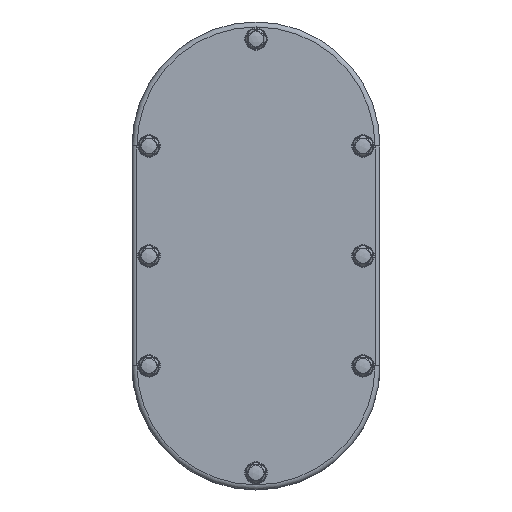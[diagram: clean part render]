
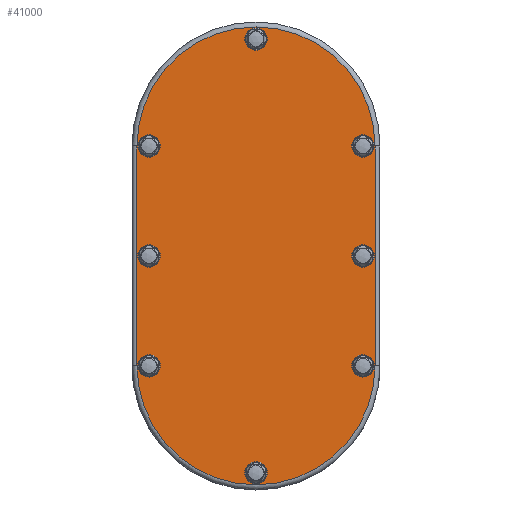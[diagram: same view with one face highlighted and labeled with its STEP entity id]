
A CAD part, top view. The second image highlights one B-rep face of the part: STEP entity #41000.
In plain terms, the highlighted planar face has unit normal (0, 0, 1).
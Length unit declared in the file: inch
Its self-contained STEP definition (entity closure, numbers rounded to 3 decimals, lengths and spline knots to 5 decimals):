
#459 = CARTESIAN_POINT ( 'NONE',  ( 2.37657, 4.38808, 3.97473 ) ) ;
#519 = VERTEX_POINT ( 'NONE', #98125 ) ;
#772 = CARTESIAN_POINT ( 'NONE',  ( 0., 4.38808, 3.97473 ) ) ;
#1127 = EDGE_CURVE ( 'NONE', #32306, #51512, #94498, .T. ) ;
#1759 = DIRECTION ( 'NONE',  ( 0., 0., -1. ) ) ;
#2587 = EDGE_LOOP ( 'NONE', ( #94924 ) ) ;
#3734 = EDGE_CURVE ( 'NONE', #92833, #92833, #76152, .T. ) ;
#5546 = EDGE_LOOP ( 'NONE', ( #11920 ) ) ;
#8767 = DIRECTION ( 'NONE',  ( 1., 0., 0. ) ) ;
#9281 = PLANE ( 'NONE',  #19405 ) ;
#10391 = CARTESIAN_POINT ( 'NONE',  ( 1.91294, 0., 3.97473 ) ) ;
#11479 = CARTESIAN_POINT ( 'NONE',  ( -1.91294, 4.38808, 3.97473 ) ) ;
#11920 = ORIENTED_EDGE ( 'NONE', *, *, #3734, .F. ) ;
#11955 = DIRECTION ( 'NONE',  ( 0., 0., 1. ) ) ;
#12512 = EDGE_LOOP ( 'NONE', ( #42092 ) ) ;
#12569 = AXIS2_PLACEMENT_3D ( 'NONE', #52813, #60327, #91348 ) ;
#13072 = VERTEX_POINT ( 'NONE', #50100 ) ;
#13649 = VECTOR ( 'NONE', #17962, 39.37008 ) ;
#15753 = VERTEX_POINT ( 'NONE', #76903 ) ;
#16795 = FACE_BOUND ( 'NONE', #63231, .T. ) ;
#16974 = CARTESIAN_POINT ( 'NONE',  ( -2.37657, 4.38808, 3.97473 ) ) ;
#17286 = FACE_BOUND ( 'NONE', #41450, .T. ) ;
#17962 = DIRECTION ( 'NONE',  ( 0., -1., 0. ) ) ;
#18179 = DIRECTION ( 'NONE',  ( 0., 0., 1. ) ) ;
#18602 = EDGE_LOOP ( 'NONE', ( #50261 ) ) ;
#18985 = CIRCLE ( 'NONE', #38455, 0.22206 ) ;
#19405 = AXIS2_PLACEMENT_3D ( 'NONE', #772, #1759, #62835 ) ;
#19975 = CARTESIAN_POINT ( 'NONE',  ( 0.22206, 6.52308, 3.97473 ) ) ;
#24363 = DIRECTION ( 'NONE',  ( 0., 0., 1. ) ) ;
#25666 = AXIS2_PLACEMENT_3D ( 'NONE', #68916, #24363, #46363 ) ;
#25968 = DIRECTION ( 'NONE',  ( 0., 0., 1. ) ) ;
#31265 = AXIS2_PLACEMENT_3D ( 'NONE', #51801, #67323, #74323 ) ;
#32306 = VERTEX_POINT ( 'NONE', #49621 ) ;
#32315 = AXIS2_PLACEMENT_3D ( 'NONE', #37622, #44658, #97707 ) ;
#33836 = AXIS2_PLACEMENT_3D ( 'NONE', #61482, #92001, #68998 ) ;
#34150 = CARTESIAN_POINT ( 'NONE',  ( -2.37657, 0., 3.97473 ) ) ;
#37622 = CARTESIAN_POINT ( 'NONE',  ( 2.135, 2.19404, 3.97473 ) ) ;
#37785 = CARTESIAN_POINT ( 'NONE',  ( -2.135, 0., 3.97473 ) ) ;
#37825 = ORIENTED_EDGE ( 'NONE', *, *, #1127, .T. ) ;
#38455 = AXIS2_PLACEMENT_3D ( 'NONE', #59799, #44272, #81333 ) ;
#38810 = FACE_BOUND ( 'NONE', #2587, .T. ) ;
#39307 = FACE_BOUND ( 'NONE', #18602, .T. ) ;
#39902 = EDGE_CURVE ( 'NONE', #80031, #80031, #41663, .T. ) ;
#40184 = CIRCLE ( 'NONE', #81769, 2.37657 ) ;
#41000 = ADVANCED_FACE ( 'NONE', ( #38810, #39307, #70349, #83885, #17286, #85373, #69367, #16795, #77849 ), #9281, .F. ) ;
#41450 = EDGE_LOOP ( 'NONE', ( #62403 ) ) ;
#41663 = CIRCLE ( 'NONE', #72043, 0.22206 ) ;
#42092 = ORIENTED_EDGE ( 'NONE', *, *, #99045, .F. ) ;
#44272 = DIRECTION ( 'NONE',  ( 0., 0., 1. ) ) ;
#44609 = ORIENTED_EDGE ( 'NONE', *, *, #72701, .T. ) ;
#44658 = DIRECTION ( 'NONE',  ( 0., 0., 1. ) ) ;
#45123 = EDGE_LOOP ( 'NONE', ( #77528 ) ) ;
#45765 = AXIS2_PLACEMENT_3D ( 'NONE', #73995, #11955, #95508 ) ;
#46363 = DIRECTION ( 'NONE',  ( 1., 0., 0. ) ) ;
#46854 = VERTEX_POINT ( 'NONE', #69115 ) ;
#48681 = DIRECTION ( 'NONE',  ( -1., 0., 0. ) ) ;
#49621 = CARTESIAN_POINT ( 'NONE',  ( -2.37657, 4.38808, 3.97473 ) ) ;
#50100 = CARTESIAN_POINT ( 'NONE',  ( 1.91294, 2.19404, 3.97473 ) ) ;
#50261 = ORIENTED_EDGE ( 'NONE', *, *, #85090, .F. ) ;
#51512 = VERTEX_POINT ( 'NONE', #34150 ) ;
#51801 = CARTESIAN_POINT ( 'NONE',  ( 0., 4.38808, 3.97473 ) ) ;
#51929 = VECTOR ( 'NONE', #67075, 39.37008 ) ;
#52813 = CARTESIAN_POINT ( 'NONE',  ( 2.135, 0., 3.97473 ) ) ;
#55028 = ORIENTED_EDGE ( 'NONE', *, *, #63766, .T. ) ;
#55539 = EDGE_LOOP ( 'NONE', ( #56107, #37825, #44609, #55028 ) ) ;
#56107 = ORIENTED_EDGE ( 'NONE', *, *, #64617, .T. ) ;
#59799 = CARTESIAN_POINT ( 'NONE',  ( -2.135, 2.19404, 3.97473 ) ) ;
#59853 = ORIENTED_EDGE ( 'NONE', *, *, #39902, .F. ) ;
#60327 = DIRECTION ( 'NONE',  ( 0., 0., 1. ) ) ;
#60524 = CIRCLE ( 'NONE', #12569, 0.22206 ) ;
#61482 = CARTESIAN_POINT ( 'NONE',  ( 0., -2.135, 3.97473 ) ) ;
#61654 = EDGE_LOOP ( 'NONE', ( #59853 ) ) ;
#62403 = ORIENTED_EDGE ( 'NONE', *, *, #79205, .F. ) ;
#62687 = CIRCLE ( 'NONE', #33836, 0.22206 ) ;
#62835 = DIRECTION ( 'NONE',  ( -1., 0., 0. ) ) ;
#63231 = EDGE_LOOP ( 'NONE', ( #88201 ) ) ;
#63766 = EDGE_CURVE ( 'NONE', #15753, #46854, #84060, .T. ) ;
#64617 = EDGE_CURVE ( 'NONE', #46854, #32306, #79215, .T. ) ;
#65511 = VERTEX_POINT ( 'NONE', #19975 ) ;
#67075 = DIRECTION ( 'NONE',  ( 0., 1., 0. ) ) ;
#67323 = DIRECTION ( 'NONE',  ( 0., 0., 1. ) ) ;
#68916 = CARTESIAN_POINT ( 'NONE',  ( 0., 6.52308, 3.97473 ) ) ;
#68998 = DIRECTION ( 'NONE',  ( -1., 0., 0. ) ) ;
#69115 = CARTESIAN_POINT ( 'NONE',  ( 2.37657, 4.38808, 3.97473 ) ) ;
#69367 = FACE_BOUND ( 'NONE', #45123, .T. ) ;
#70349 = FACE_BOUND ( 'NONE', #61654, .T. ) ;
#71276 = CARTESIAN_POINT ( 'NONE',  ( 1.91294, 4.38808, 3.97473 ) ) ;
#72043 = AXIS2_PLACEMENT_3D ( 'NONE', #37785, #77343, #8767 ) ;
#72701 = EDGE_CURVE ( 'NONE', #51512, #15753, #40184, .T. ) ;
#72844 = CIRCLE ( 'NONE', #92091, 0.22206 ) ;
#73915 = EDGE_CURVE ( 'NONE', #13072, #13072, #75495, .T. ) ;
#73995 = CARTESIAN_POINT ( 'NONE',  ( 2.135, 4.38808, 3.97473 ) ) ;
#74323 = DIRECTION ( 'NONE',  ( -1., 0., 0. ) ) ;
#75495 = CIRCLE ( 'NONE', #32315, 0.22206 ) ;
#76152 = CIRCLE ( 'NONE', #45765, 0.22206 ) ;
#76903 = CARTESIAN_POINT ( 'NONE',  ( 2.37657, 0., 3.97473 ) ) ;
#77343 = DIRECTION ( 'NONE',  ( 0., 0., 1. ) ) ;
#77528 = ORIENTED_EDGE ( 'NONE', *, *, #73915, .F. ) ;
#77849 = FACE_OUTER_BOUND ( 'NONE', #55539, .T. ) ;
#78960 = VERTEX_POINT ( 'NONE', #10391 ) ;
#79205 = EDGE_CURVE ( 'NONE', #519, #519, #62687, .T. ) ;
#79215 = CIRCLE ( 'NONE', #31265, 2.37657 ) ;
#79540 = CARTESIAN_POINT ( 'NONE',  ( -1.91294, 0., 3.97473 ) ) ;
#80031 = VERTEX_POINT ( 'NONE', #79540 ) ;
#80049 = VERTEX_POINT ( 'NONE', #11479 ) ;
#81333 = DIRECTION ( 'NONE',  ( 1., 0., 0. ) ) ;
#81769 = AXIS2_PLACEMENT_3D ( 'NONE', #86750, #18179, #48681 ) ;
#83885 = FACE_BOUND ( 'NONE', #12512, .T. ) ;
#84060 = LINE ( 'NONE', #459, #51929 ) ;
#85090 = EDGE_CURVE ( 'NONE', #80049, #80049, #72844, .T. ) ;
#85373 = FACE_BOUND ( 'NONE', #5546, .T. ) ;
#86750 = CARTESIAN_POINT ( 'NONE',  ( 0., 0., 3.97473 ) ) ;
#87035 = DIRECTION ( 'NONE',  ( 1., 0., 0. ) ) ;
#88201 = ORIENTED_EDGE ( 'NONE', *, *, #89009, .F. ) ;
#88531 = CARTESIAN_POINT ( 'NONE',  ( -1.91294, 2.19404, 3.97473 ) ) ;
#88610 = EDGE_CURVE ( 'NONE', #96014, #96014, #18985, .T. ) ;
#89009 = EDGE_CURVE ( 'NONE', #65511, #65511, #91181, .T. ) ;
#91181 = CIRCLE ( 'NONE', #25666, 0.22206 ) ;
#91348 = DIRECTION ( 'NONE',  ( -1., 0., 0. ) ) ;
#92001 = DIRECTION ( 'NONE',  ( 0., 0., 1. ) ) ;
#92091 = AXIS2_PLACEMENT_3D ( 'NONE', #94515, #25968, #87035 ) ;
#92833 = VERTEX_POINT ( 'NONE', #71276 ) ;
#94498 = LINE ( 'NONE', #16974, #13649 ) ;
#94515 = CARTESIAN_POINT ( 'NONE',  ( -2.135, 4.38808, 3.97473 ) ) ;
#94924 = ORIENTED_EDGE ( 'NONE', *, *, #88610, .F. ) ;
#95508 = DIRECTION ( 'NONE',  ( -1., 0., 0. ) ) ;
#96014 = VERTEX_POINT ( 'NONE', #88531 ) ;
#97707 = DIRECTION ( 'NONE',  ( -1., 0., 0. ) ) ;
#98125 = CARTESIAN_POINT ( 'NONE',  ( -0.22206, -2.135, 3.97473 ) ) ;
#99045 = EDGE_CURVE ( 'NONE', #78960, #78960, #60524, .T. ) ;
